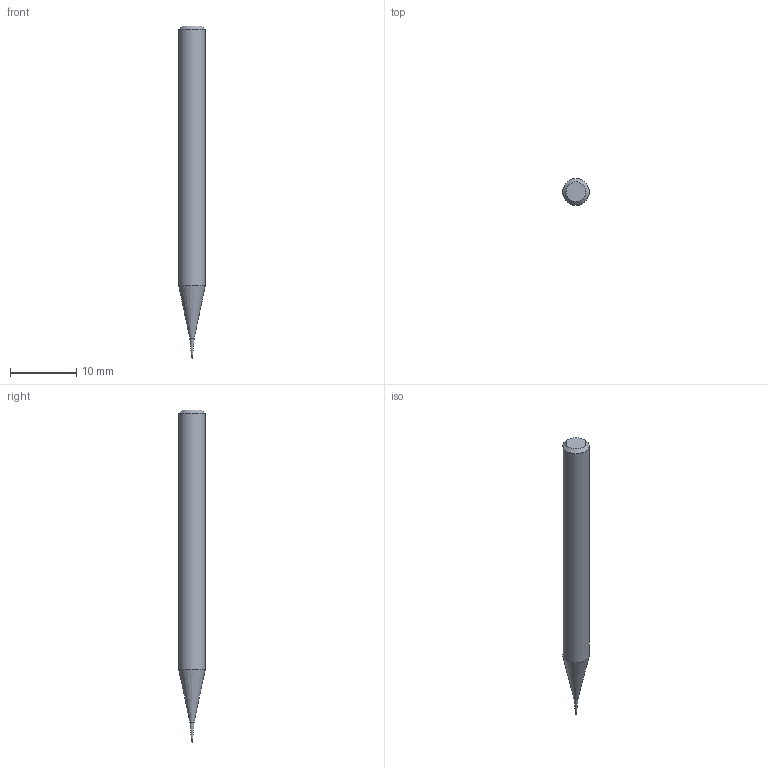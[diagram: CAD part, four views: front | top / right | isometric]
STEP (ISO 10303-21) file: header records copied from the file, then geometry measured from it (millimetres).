
FILE_DESCRIPTION((''),'2;1');
FILE_NAME('C:\Users\nsx150\AppData\Local\Temp\Mastercam 2021\SNAKH10GOD\TEMP.step','2021-10-21T13:30:45',(''),(''),'STEP Write','Mastercam 2021 ... CNC Software, Inc.','');
FILE_SCHEMA(('AUTOMOTIVE_DESIGN'));
Length unit declared in the file: millimetre
Products named in the file (1): None
Bounding box: 4 x 4 x 50 mm (x, y, z)
Volume: 529.8 mm3; surface area: 562.8 mm2
Topology: 2 solids, 2 shells, 10 faces, 16 edges, 9 vertices
Faces by surface type: plane 3, cylinder 3, cone 3, sphere 1
Full cylindrical faces by diameter (mm): 0.195 x1, 0.2 x1, 4 x1
Entity records: 232 total; most frequent: DIRECTION 40, CARTESIAN_POINT 28, AXIS2_PLACEMENT_3D 20, ORIENTED_EDGE 16, EDGE_LOOP 16, STYLED_ITEM 13, ADVANCED_FACE 10, FACE_BOUND 9
